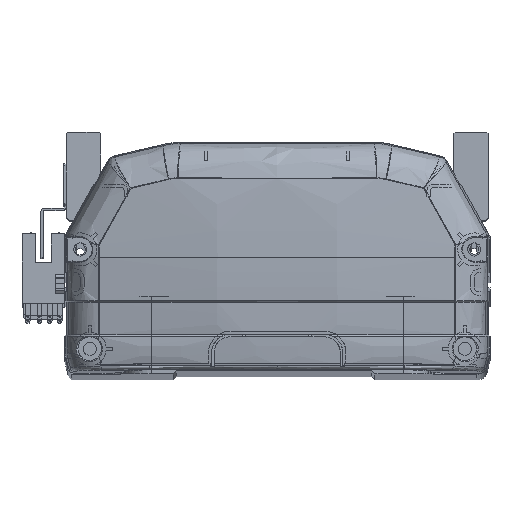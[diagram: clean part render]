
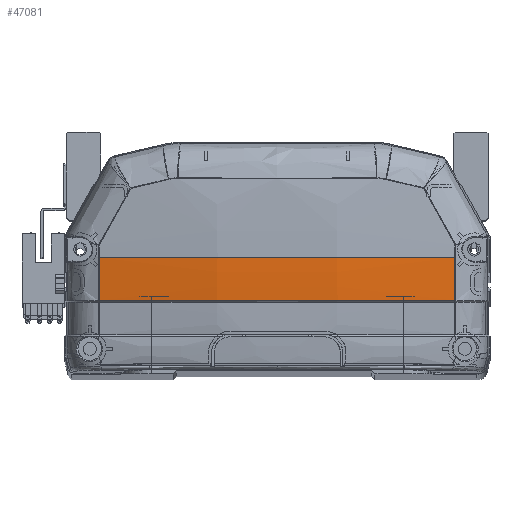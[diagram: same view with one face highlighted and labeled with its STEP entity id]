
A CAD part, top view. The second image highlights one B-rep face of the part: STEP entity #47081.
In plain terms, the highlighted free-form (B-spline) face has degree [3, 3] with [4, 4] control points.
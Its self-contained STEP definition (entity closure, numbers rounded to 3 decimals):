
#1631 = VERTEX_POINT ( 'NONE', #1867 ) ;
#1867 = CARTESIAN_POINT ( 'NONE',  ( -56.647, 36., -5.158 ) ) ;
#3040 = CARTESIAN_POINT ( 'NONE',  ( 19.295, 21.828, -11.186 ) ) ;
#3114 = CARTESIAN_POINT ( 'NONE',  ( 56.647, 36., -5.158 ) ) ;
#3670 = CARTESIAN_POINT ( 'NONE',  ( 1.152, 22.225, -9.568 ) ) ;
#5224 = CARTESIAN_POINT ( 'NONE',  ( 56.647, 35.969, -5.158 ) ) ;
#5469 = EDGE_CURVE ( 'NONE', #6099, #1631, #30469, .T. ) ;
#6099 = VERTEX_POINT ( 'NONE', #3114 ) ;
#6593 = EDGE_CURVE ( 'NONE', #33327, #26531, #38286, .T. ) ;
#6746 = CARTESIAN_POINT ( 'NONE',  ( -19.295, 31.274, -11.535 ) ) ;
#6762 = CARTESIAN_POINT ( 'NONE',  ( 38.071, 22.225, -7.566 ) ) ;
#6901 = B_SPLINE_CURVE_WITH_KNOTS ( 'NONE', 3,
 ( #23888, #45388, #38339, #46034 ),
 .UNSPECIFIED., .F., .F.,
 ( 4, 4 ),
 ( 0., 1. ),
 .UNSPECIFIED. ) ;
#7233 = CARTESIAN_POINT ( 'NONE',  ( 19.295, 36., -11.535 ) ) ;
#7247 = CARTESIAN_POINT ( 'NONE',  ( 47.432, 22.225, -6.377 ) ) ;
#7382 = CARTESIAN_POINT ( 'NONE',  ( 0., 36., 330.833 ) ) ;
#9857 = CIRCLE ( 'NONE', #10982, 6395.966 ) ;
#10321 = CARTESIAN_POINT ( 'NONE',  ( -56.661, 22.225, -4.818 ) ) ;
#10777 = DIRECTION ( 'NONE',  ( 0., 0., -1. ) ) ;
#10982 = AXIS2_PLACEMENT_3D ( 'NONE', #35640, #16664, #39022 ) ;
#11080 = CARTESIAN_POINT ( 'NONE',  ( -19.295, 26.549, -11.419 ) ) ;
#14187 = CARTESIAN_POINT ( 'NONE',  ( -19.295, 21.828, -11.186 ) ) ;
#14518 = CARTESIAN_POINT ( 'NONE',  ( 19.121, 22.225, -9.064 ) ) ;
#15484 = VERTEX_POINT ( 'NONE', #17683 ) ;
#16044 = CARTESIAN_POINT ( 'NONE',  ( 56.647, 31.387, -5.158 ) ) ;
#16664 = DIRECTION ( 'NONE',  ( 0., 0., -1. ) ) ;
#17683 = CARTESIAN_POINT ( 'NONE',  ( 56.647, 35.969, -5.158 ) ) ;
#17738 = EDGE_CURVE ( 'NONE', #33327, #15484, #31539, .T. ) ;
#18360 = CARTESIAN_POINT ( 'NONE',  ( 57.335, 31.38, -5.042 ) ) ;
#18703 =( BOUNDED_SURFACE ( )  B_SPLINE_SURFACE ( 3, 3, ( 
 ( #32822, #32537, #18360, #29446 ),
 ( #3040, #25415, #28804, #7233 ),
 ( #14187, #11080, #6746, #25256 ),
 ( #32979, #43896, #36819, #36519 ) ),
 .UNSPECIFIED., .F., .F., .F. ) 
 B_SPLINE_SURFACE_WITH_KNOTS ( ( 4, 4 ),
 ( 4, 4 ),
 ( 0., 1. ),
 ( 0., 1. ),
 .UNSPECIFIED. ) 
 GEOMETRIC_REPRESENTATION_ITEM ( )  RATIONAL_B_SPLINE_SURFACE ( (
 ( 1., 1., 1., 1.),
 ( 0.99, 0.99, 0.99, 0.99),
 ( 0.99, 0.99, 0.99, 0.99),
 ( 1., 1., 1., 1.) ) ) 
 REPRESENTATION_ITEM ( '' )  SURFACE ( )  );
#19346 = AXIS2_PLACEMENT_3D ( 'NONE', #7382, #40066, #10777 ) ;
#19955 = CARTESIAN_POINT ( 'NONE',  ( 56.661, 22.225, -4.818 ) ) ;
#20778 = EDGE_CURVE ( 'NONE', #15484, #6099, #9857, .T. ) ;
#21629 = CARTESIAN_POINT ( 'NONE',  ( 23.877, 22.225, -8.763 ) ) ;
#21782 = CARTESIAN_POINT ( 'NONE',  ( 11.954, 22.225, -9.367 ) ) ;
#23888 = CARTESIAN_POINT ( 'NONE',  ( -56.647, 36., -5.158 ) ) ;
#24728 = CARTESIAN_POINT ( 'NONE',  ( 56.661, 22.225, -4.818 ) ) ;
#25256 = CARTESIAN_POINT ( 'NONE',  ( -19.295, 36., -11.535 ) ) ;
#25415 = CARTESIAN_POINT ( 'NONE',  ( 19.295, 26.549, -11.419 ) ) ;
#25433 = CARTESIAN_POINT ( 'NONE',  ( 4.761, 22.225, -9.537 ) ) ;
#26531 = VERTEX_POINT ( 'NONE', #31869 ) ;
#26733 = ORIENTED_EDGE ( 'NONE', *, *, #5469, .F. ) ;
#27421 = ORIENTED_EDGE ( 'NONE', *, *, #39039, .F. ) ;
#28804 = CARTESIAN_POINT ( 'NONE',  ( 19.295, 31.274, -11.535 ) ) ;
#29149 = CARTESIAN_POINT ( 'NONE',  ( 2.357, 22.225, -9.562 ) ) ;
#29446 = CARTESIAN_POINT ( 'NONE',  ( 57.335, 36., -5.042 ) ) ;
#29461 = CARTESIAN_POINT ( 'NONE',  ( -38.235, 22.225, -7.93 ) ) ;
#30469 = CIRCLE ( 'NONE', #19346, 340.733 ) ;
#31146 = FACE_OUTER_BOUND ( 'NONE', #34295, .T. ) ;
#31539 = B_SPLINE_CURVE_WITH_KNOTS ( 'NONE', 3,
 ( #19955, #38237, #16044, #5224 ),
 .UNSPECIFIED., .F., .F.,
 ( 4, 4 ),
 ( 0., 1. ),
 .UNSPECIFIED. ) ;
#31869 = CARTESIAN_POINT ( 'NONE',  ( -56.661, 22.225, -4.818 ) ) ;
#32537 = CARTESIAN_POINT ( 'NONE',  ( 57.335, 26.762, -4.928 ) ) ;
#32822 = CARTESIAN_POINT ( 'NONE',  ( 57.335, 22.148, -4.7 ) ) ;
#32979 = CARTESIAN_POINT ( 'NONE',  ( -57.335, 22.148, -4.7 ) ) ;
#33327 = VERTEX_POINT ( 'NONE', #24728 ) ;
#33966 = ORIENTED_EDGE ( 'NONE', *, *, #17738, .F. ) ;
#34295 = EDGE_LOOP ( 'NONE', ( #26733, #39616, #33966, #42396, #27421 ) ) ;
#35640 = CARTESIAN_POINT ( 'NONE',  ( 6452.613, 35.969, -5.158 ) ) ;
#36519 = CARTESIAN_POINT ( 'NONE',  ( -57.335, 36., -5.042 ) ) ;
#36819 = CARTESIAN_POINT ( 'NONE',  ( -57.335, 31.38, -5.042 ) ) ;
#38237 = CARTESIAN_POINT ( 'NONE',  ( 56.652, 26.806, -5.044 ) ) ;
#38286 = B_SPLINE_CURVE_WITH_KNOTS ( 'NONE', 3,
 ( #40372, #7247, #6762, #21629, #14518, #21782, #44058, #25433, #29149, #3670, #43602, #29461, #10321 ),
 .UNSPECIFIED., .F., .F.,
 ( 4, 2, 2, 1, 2, 2, 4 ),
 ( 0., 0.25, 0.375, 0.438, 0.469, 0.5, 1. ),
 .UNSPECIFIED. ) ;
#38339 = CARTESIAN_POINT ( 'NONE',  ( -56.652, 26.814, -5.045 ) ) ;
#39022 = DIRECTION ( 'NONE',  ( -1., 0., 0. ) ) ;
#39039 = EDGE_CURVE ( 'NONE', #1631, #26531, #6901, .T. ) ;
#39616 = ORIENTED_EDGE ( 'NONE', *, *, #20778, .F. ) ;
#40066 = DIRECTION ( 'NONE',  ( 0., 1., 0. ) ) ;
#40372 = CARTESIAN_POINT ( 'NONE',  ( 56.661, 22.225, -4.818 ) ) ;
#42396 = ORIENTED_EDGE ( 'NONE', *, *, #6593, .T. ) ;
#43602 = CARTESIAN_POINT ( 'NONE',  ( -19.28, 22.225, -9.565 ) ) ;
#43896 = CARTESIAN_POINT ( 'NONE',  ( -57.335, 26.762, -4.928 ) ) ;
#44058 = CARTESIAN_POINT ( 'NONE',  ( 8.363, 22.225, -9.48 ) ) ;
#45388 = CARTESIAN_POINT ( 'NONE',  ( -56.647, 31.405, -5.158 ) ) ;
#46034 = CARTESIAN_POINT ( 'NONE',  ( -56.661, 22.225, -4.818 ) ) ;
#47081 = ADVANCED_FACE ( 'NONE', ( #31146 ), #18703, .T. ) ;
